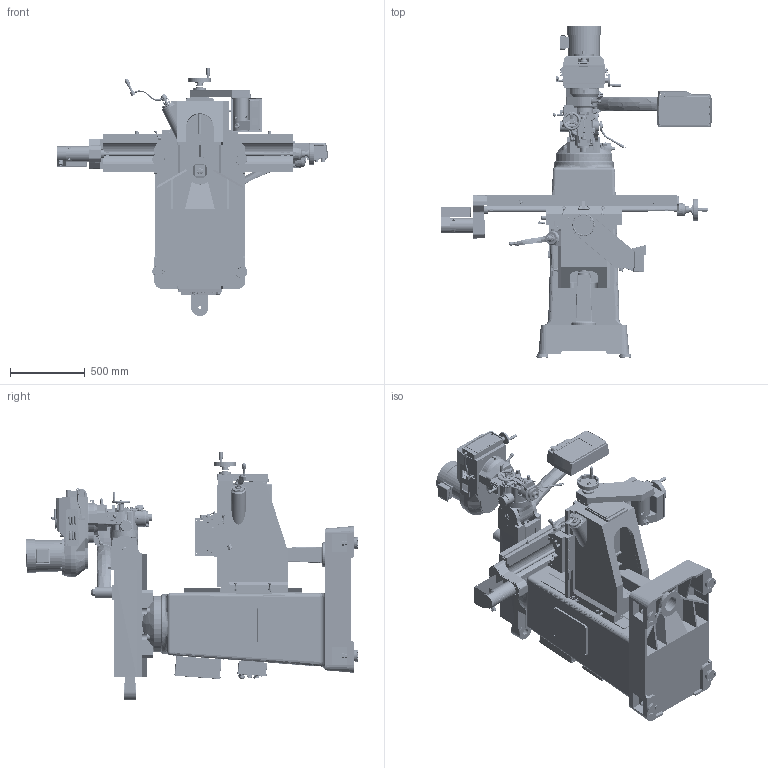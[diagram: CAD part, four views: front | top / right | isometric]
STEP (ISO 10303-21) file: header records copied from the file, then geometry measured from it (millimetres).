
FILE_DESCRIPTION( ( 'Unknown' ), '1' );
FILE_NAME( 'C:/Users/Owner.Owner-PC/Desktop/K3 3D Models/20593.stp', 'Unknown', ( 'Unknown' ), ( 'Unknown' ), 'PSStep 14.0', 'Unknown', ' ' );
FILE_SCHEMA( ( 'AUTOMOTIVE_DESIGN { 1 0 10303 214 1 1 1 1 }' ) );
Length unit declared in the file: inch
Products named in the file (349): Assem1; -oa0
Assembly tree (348 placements, depth 2):
  Assem1
    -oa0
    -oa0
    -oa0
    -oa0
    -oa0
    -oa0
    -oa0
    -oa0
    -oa0
    -oa0
    -oa0
    -oa0
    -oa0
    -oa0
    -oa0
    -oa0
    -oa0
    -oa0
    -oa0
    -oa0
    -oa0
    -oa0
    -oa0
    -oa0
    -oa0
    -oa0
    -oa0
    -oa0
    -oa0
    -oa0
    -oa0
    -oa0
    -oa0
    -oa0
    -oa0
    -oa0
    -oa0
    -oa0
    -oa0
    -oa0
    -oa0
    -oa0
    -oa0
    -oa0
    -oa0
    -oa0
    -oa0
    -oa0
    -oa0
    -oa0
    -oa0
    -oa0
    -oa0
    -oa0
    -oa0
    -oa0
    -oa0
    -oa0
    -oa0
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Bounding box: 1827.35 x 2225.08 x 1664.82 mm (x, y, z)
Surface area: 15150921.9 mm2 (no closed solid volume)
Topology: 0 solids, 3646 shells, 3648 faces, 26471 edges, 25762 vertices
Faces by surface type: plane 1937, cylinder 985, cone 363, bspline 186, torus 117, sphere 48, revolution 7, extrusion 5
Full cylindrical faces by diameter (mm): 6.35 x3, 7 x7, 7.112 x1, 7.137 x1, 7.455 x2, 7.805 x1, 7.874 x2, 8 x2, 8.433 x2, 8.5 x2, 9.3 x1, 9.5 x2, 9.525 x11, 10 x6, 11 x12, 11.049 x2, 11.325 x7, 11.326 x5, 12 x5, 12.5 x2, 12.7 x15, 12.852 x1, 13 x6, 13.462 x1, 13.589 x4, 13.8 x2, 14 x2, 14.5 x2, 15 x9, 15.5 x1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
Entity records: 330634 total; most frequent: CARTESIAN_POINT 113946, DIRECTION 39346, ORIENTED_EDGE 25564, EDGE_CURVE 25564, VERTEX_POINT 25564, AXIS2_PLACEMENT_3D 13997, VECTOR 11344, LINE 11339
